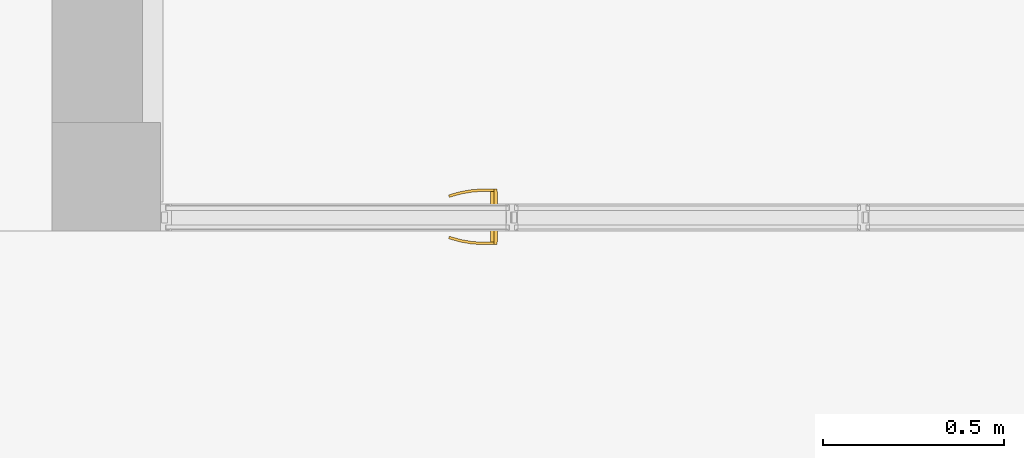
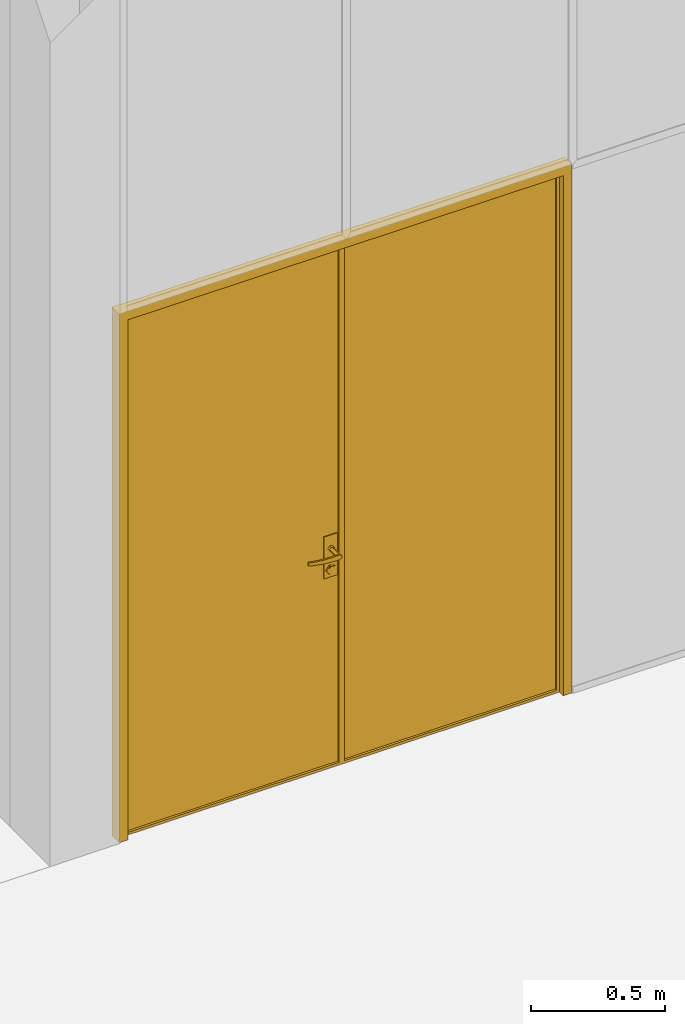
# One storey, part 160 of 246: 1 door, 1 element without a shape of its own.
"""IFC2X3 building model written with IfcOpenShell, lengths in millimetres."""

import ifcopenshell
import ifcopenshell.guid

model = None  # the IFC model being written
_history = None  # IfcOwnerHistory: only IFC2X3 demands one
_inside = {}  # id of a spatial element -> (the spatial element, [elements in it])
_under = {}  # id of a project, library or spatial element -> (it, [spatial elements below it])
_declared = {}  # id of a project -> (the project, [libraries it declares])
_typed = {}  # id of a type object -> (the type object, [elements of that type])
_made_of = {}  # id of a material, layer set ... -> (it, [elements and type objects made of it])


def new_model(schema):
    """Start an empty IFC model of exactly this schema.

    Asked for "IFC4X3", IfcOpenShell would pick the latest addendum, in which some entities
    have other attributes; the version numbers below select the first issue.
    IFC2X3 requires an IfcOwnerHistory on every rooted entity: one is made here for all.
    """
    global model, _history
    if schema == "IFC4X3":
        model = ifcopenshell.file(schema_version=(4, 3, 0, 0))
    else:
        model = ifcopenshell.file(schema=schema)
    _inside.clear()
    _under.clear()
    _declared.clear()
    _typed.clear()
    _made_of.clear()
    _history = None
    if model.schema == "IFC2X3":
        org = make("IfcOrganization", Name="unknown")
        user = make(
            "IfcPersonAndOrganization",
            ThePerson=make("IfcPerson", FamilyName="unknown"),
            TheOrganization=org,
        )
        app = make(
            "IfcApplication",
            ApplicationDeveloper=org,
            Version="unknown",
            ApplicationFullName="unknown",
            ApplicationIdentifier="unknown",
        )
        _history = make(
            "IfcOwnerHistory",
            OwningUser=user,
            OwningApplication=app,
            ChangeAction="ADDED",
            CreationDate=0,
        )
    return model


def make(cls, **values):
    """One entity of the class cls with the attributes given. An attribute that is None is left unset."""
    return model.create_entity(
        cls, **{name: value for name, value in values.items() if value is not None}
    )


def entity(cls, *values):
    """Any entity or typed value of the class cls, its attributes in the order of the schema. None: left unset."""
    e = model.create_entity(cls)
    for i, value in enumerate(values):
        if value is not None:
            e[i] = value
    return e


def rooted(cls, **values):
    """An entity with a GlobalId (a new one), such as an element, a storey or a relation."""
    return make(cls, GlobalId=ifcopenshell.guid.new(), OwnerHistory=_history, **values)


def si_unit(unit_type, name, prefix=None):
    """IfcSIUnit, for example si_unit("LENGTHUNIT", "METRE", prefix="MILLI")."""
    return make("IfcSIUnit", UnitType=unit_type, Prefix=prefix, Name=name)


def converted_unit(unit_type, name, factor, base, dimensions=None, offset=None):
    """IfcConversionBasedUnit, such as the inch: factor (a typed value) times the base unit."""
    return make(
        "IfcConversionBasedUnit"
        if offset is None
        else "IfcConversionBasedUnitWithOffset",
        ConversionOffset=offset,
        Dimensions=None
        if dimensions is None
        else entity("IfcDimensionalExponents", *dimensions),
        UnitType=unit_type,
        Name=name,
        ConversionFactor=make(
            "IfcMeasureWithUnit", ValueComponent=factor, UnitComponent=base
        ),
    )


def derived_unit(unit_type, elements):
    """IfcDerivedUnit: a product of units, each with its exponent."""
    return make(
        "IfcDerivedUnit",
        Elements=[
            make("IfcDerivedUnitElement", Unit=unit, Exponent=power)
            for unit, power in elements
        ],
        UnitType=unit_type,
    )


def money_unit(currency):
    """IfcMonetaryUnit."""
    return make("IfcMonetaryUnit", Currency=currency)


def assignment(units):
    """IfcUnitAssignment: the units of a project."""
    return None if units is None else make("IfcUnitAssignment", Units=units)


def point(xyz):
    """IfcCartesianPoint."""
    return None if xyz is None else make("IfcCartesianPoint", Coordinates=xyz)


def direction(xyz):
    """IfcDirection."""
    return None if xyz is None else make("IfcDirection", DirectionRatios=xyz)


def frame(location, z_axis=None, x_axis=None):
    """IfcAxis2Placement3D, a coordinate frame: its origin and axes. An axis left out is left unset."""
    return make(
        "IfcAxis2Placement3D",
        Location=point(location),
        Axis=direction(z_axis),
        RefDirection=direction(x_axis),
    )


def origin_with_axes():
    """The frame at (0, 0, 0) with the z axis (0, 0, 1) and the x axis (1, 0, 0) written out."""
    return frame((0.0, 0.0, 0.0), z_axis=(0.0, 0.0, 1.0), x_axis=(1.0, 0.0, 0.0))


def place(relative_to, where):
    """IfcLocalPlacement: puts the frame where relative to a parent placement (None: the world)."""
    return make(
        "IfcLocalPlacement", PlacementRelTo=relative_to, RelativePlacement=where
    )


def context(
    kind, dimensions, precision=None, world=None, true_north=None, identifier=None
):
    """IfcGeometricRepresentationContext, for example the 3D "Model" context."""
    return make(
        "IfcGeometricRepresentationContext",
        ContextIdentifier=identifier,
        ContextType=kind,
        CoordinateSpaceDimension=dimensions,
        Precision=precision,
        WorldCoordinateSystem=world,
        TrueNorth=true_north,
    )


def subcontext(parent, identifier, kind, view, scale=None):
    """IfcGeometricRepresentationSubContext, for example "Body" below "Model"."""
    return make(
        "IfcGeometricRepresentationSubContext",
        ContextIdentifier=identifier,
        ContextType=kind,
        ParentContext=parent,
        TargetScale=scale,
        TargetView=view,
    )


def project(units=None, contexts=None):
    """IfcProject with its units and contexts."""
    return rooted(
        "IfcProject",
        Name="project",
        RepresentationContexts=contexts,
        UnitsInContext=assignment(units),
    )


def spatial(cls, under=None, at=None, **own):
    """A site, building, storey or space (cls), placed at a placement, below another one or the project."""
    s = rooted(cls, ObjectPlacement=at, **own)
    if under is not None:
        _under.setdefault(under.id(), (under, []))[1].append(s)
    return s


def faces_of(points, faces, orient=None, outer=None):
    """IfcFace entities. A face is a list of loops; a loop is a list of indices into points, from 0.

    orient and outer hold one flag for each loop. By default every Orientation is true, the
    first loop of a face is its IfcFaceOuterBound and the others are IfcFaceBound.
    """
    made = []
    for i, loops in enumerate(faces):
        bounds = []
        for j, loop in enumerate(loops):
            is_outer = j == 0 if outer is None else outer[i][j]
            bounds.append(
                make(
                    "IfcFaceOuterBound" if is_outer else "IfcFaceBound",
                    Bound=make("IfcPolyLoop", Polygon=[points[k] for k in loop]),
                    Orientation=True if orient is None else orient[i][j],
                )
            )
        made.append(make("IfcFace", Bounds=bounds))
    return made


def open_shell(faces, orient=None, outer=None):
    """The faces of one IfcOpenShell. surface_model builds it on its shared points."""
    return ("IfcOpenShell", faces, orient, outer)


def faceted_brep(points, faces, orient=None, outer=None, voids=None):
    """IfcFacetedBrep: a solid bounded by flat faces; with voids (closed shells), ...WithVoids."""
    shared = [point(p) for p in points]
    hull = make("IfcClosedShell", CfsFaces=faces_of(shared, faces, orient, outer))
    if voids is None:
        return make("IfcFacetedBrep", Outer=hull)
    return make(
        "IfcFacetedBrepWithVoids",
        Outer=hull,
        Voids=[
            make(cls, CfsFaces=faces_of(shared, fs, o, b)) for cls, fs, o, b in voids
        ],
    )


def surface_model(cls, points, shells):
    """IfcFaceBasedSurfaceModel or IfcShellBasedSurfaceModel (cls): surfaces that need not close."""
    shared = [point(p) for p in points]
    made = [make(c, CfsFaces=faces_of(shared, fs, o, b)) for c, fs, o, b in shells]
    if cls == "IfcFaceBasedSurfaceModel":
        return make(cls, FbsmFaces=made)
    return make(cls, SbsmBoundary=made)


def shape(context_of_items, identifier, shape_type, items):
    """IfcShapeRepresentation: the items that make up one representation, for example the "Body"."""
    return make(
        "IfcShapeRepresentation",
        ContextOfItems=context_of_items,
        RepresentationIdentifier=identifier,
        RepresentationType=shape_type,
        Items=items,
    )


def material(Name=None, Category=None):
    """IfcMaterial."""
    return make("IfcMaterial", Name=Name, Category=Category)


def material_list(materials):
    """IfcMaterialList."""
    return make("IfcMaterialList", Materials=materials)


def made_of(thing, what):
    """Note that an element or type object is made of a material, layer set ...; save() writes the relation."""
    if what is not None:
        _made_of.setdefault(what.id(), (what, []))[1].append(thing)
    return thing


def type_object(cls, material=None, **own):
    """A type object (cls), such as IfcWallType, which elements share."""
    return made_of(rooted(cls, **own), material)


def element(
    cls,
    number,
    at=None,
    inside=None,
    cuts=None,
    type_object=None,
    material=None,
    context=None,
    identifier="Body",
    shape_type=None,
    held_by="IfcProductDefinitionShape",
    body=None,
    shapes=None,
    **own,
):
    """One element of the class cls, such as IfcWall. Its Tag is "e" and its number.

    at: its placement. inside: the storey or other place that contains it. cuts: it is an
    opening in that element (IfcRelVoidsElement). A single representation is given by context,
    identifier, shape_type and body (its items); several are given by shapes. held_by: the class
    of the entity that holds the representations. save() writes the other relations.
    """
    e = rooted(cls, Tag="e%d" % number, ObjectPlacement=at, **own)
    if body is not None:
        shapes = [shape(context, identifier, shape_type, body)]
    if shapes is not None:
        e.Representation = make(held_by, Representations=shapes)
    if inside is not None:
        _inside.setdefault(inside.id(), (inside, []))[1].append(e)
    if cuts is not None:
        rooted(
            "IfcRelVoidsElement", RelatingBuildingElement=cuts, RelatedOpeningElement=e
        )
    if type_object is not None:
        _typed.setdefault(type_object.id(), (type_object, []))[1].append(e)
    return made_of(e, material)


def aggregate(whole, parts):
    """IfcRelAggregates: a whole, such as a stair, and the parts it consists of."""
    return rooted("IfcRelAggregates", RelatingObject=whole, RelatedObjects=parts)


def save(model, path):
    """Write the relations noted so far, then the file.

    IfcRelAggregates (storeys below a building ...), IfcRelContainedInSpatialStructure (elements
    in a storey), IfcRelDefinesByType, IfcRelAssociatesMaterial and IfcRelDeclares: one each for
    every whole, place, type object, material and project.
    """
    for whole, parts in _under.values():
        aggregate(whole, parts)
    for where, things in _inside.values():
        rooted(
            "IfcRelContainedInSpatialStructure",
            RelatedElements=things,
            RelatingStructure=where,
        )
    for kind, things in _typed.values():
        rooted("IfcRelDefinesByType", RelatedObjects=things, RelatingType=kind)
    for what, things in _made_of.values():
        rooted("IfcRelAssociatesMaterial", RelatedObjects=things, RelatingMaterial=what)
    for by, libraries in _declared.values():
        rooted("IfcRelDeclares", RelatingContext=by, RelatedDefinitions=libraries)
    model.write(path)


model = new_model("IFC2X3")

# Units and contexts
model_context = context("Model", 3, precision=0.01, world=origin_with_axes(), true_north=direction((0.0, 1.0)))
body_context = subcontext(model_context, "Body", "Model", "MODEL_VIEW")
ifc_project = project(units=[si_unit("LENGTHUNIT", "METRE", prefix="MILLI"), si_unit("AREAUNIT", "SQUARE_METRE"), si_unit("VOLUMEUNIT", "CUBIC_METRE"), converted_unit("PLANEANGLEUNIT", "DEGREE", entity("IfcPlaneAngleMeasure", 0.0174532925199), si_unit("PLANEANGLEUNIT", "RADIAN"), dimensions=[0, 0, 0, 0, 0, 0, 0]), si_unit("SOLIDANGLEUNIT", "STERADIAN"), money_unit("EUR"), converted_unit("TIMEUNIT", "Year", entity("IfcTimeMeasure", 31556926.0), si_unit("TIMEUNIT", "SECOND"), dimensions=[0, 0, 1, 0, 0, 0, 0]), si_unit("MASSUNIT", "GRAM", prefix="KILO"), si_unit("THERMODYNAMICTEMPERATUREUNIT", "DEGREE_CELSIUS"), si_unit("LUMINOUSINTENSITYUNIT", "LUMEN"), si_unit("ENERGYUNIT", "JOULE", prefix="MEGA"), derived_unit("THERMALCONDUCTANCEUNIT", [(si_unit("POWERUNIT", "WATT"), 1), (si_unit("LENGTHUNIT", "METRE"), -1), (si_unit("THERMODYNAMICTEMPERATUREUNIT", "KELVIN"), -1)]), derived_unit("SPECIFICHEATCAPACITYUNIT", [(si_unit("ENERGYUNIT", "JOULE"), 1), (si_unit("MASSUNIT", "GRAM", prefix="KILO"), -1), (si_unit("THERMODYNAMICTEMPERATUREUNIT", "KELVIN"), -1)]), derived_unit("MASSDENSITYUNIT", [(si_unit("MASSUNIT", "GRAM", prefix="KILO"), 1), (si_unit("VOLUMEUNIT", "CUBIC_METRE"), -1)])], contexts=[model_context])

# Site, building, storey
site_placement = place(None, origin_with_axes())
site = spatial("IfcSite", under=ifc_project, at=site_placement, Name="L.Koidula tn 11b", CompositionType="ELEMENT")
building_placement = place(site_placement, origin_with_axes())
building = spatial("IfcBuilding", under=site, at=building_placement, Name="Rakvere Riigigümnaasium", CompositionType="ELEMENT")
storey_placement = place(building_placement, origin_with_axes())
storey = spatial("IfcBuildingStorey", under=building, at=storey_placement, Name="1.korrus 0,00", CompositionType="ELEMENT", Elevation=0.0)

# Curtain wall, door
curtain_wall_type = type_object("IfcCurtainWallType", Name="Curtain Wall Type", PredefinedType="NOTDEFINED")
curtain_wall_placement = place(storey_placement, frame((26572.4999007, 61372.4546496, 0.0), z_axis=(0.0, 0.0, 1.0), x_axis=(1.0, 0.0, 0.0)))
curtain_wall = element("IfcCurtainWall", 1, at=curtain_wall_placement, inside=storey, type_object=curtain_wall_type, Name="SKLF-01")
ifc_material_1 = material(Name="Alumiinium.")
ifc_material_2 = material(Name="VKR-05_Klaas")
ifc_material_3 = material(Name="ET-07_Teras - Roostevaba")
ifc_material_list = material_list([ifc_material_1, ifc_material_2, ifc_material_3])
door_style = type_object("IfcDoorStyle", Name="Siseklaasfassaad - Klaasuks-2-poolne 973 x 2385 x -22", ConstructionType="NOTDEFINED", OperationType="NOTDEFINED", ParameterTakesPrecedence=False, Sizeable=False)
door_placement = place(curtain_wall_placement, frame((0.0, 0.0, 1200.0), z_axis=(0.0, 0.0, 1.0), x_axis=(-1.0, 0.0, 0.0)))
door = element("IfcDoor", 2, at=door_placement, type_object=door_style, material=ifc_material_list, Name="Panel-Siseklaasf-002", ObjectType="DOOR", context=body_context, shape_type="SurfaceModel", body=[
    faceted_brep([(-972.5, -27.0, -1200.0), (-972.5, -27.0, 1200.0), (-972.5, -13.0, 1200.0), (-972.5, -13.0, -1200.0), (-926.5, -27.0, -1200.0), (-926.5, -27.0, 1154.0), (-926.5, -13.0, 1154.0), (-926.5, -13.0, -1200.0)], [[[0, 1, 2, 3]], [[0, 4, 5, 1]], [[1, 5, 6, 2]], [[3, 2, 6, 7]], [[4, 0, 3, 7]], [[5, 4, 7, 6]]]),
    faceted_brep([(972.5, -27.0, 1200.0), (926.5, -27.0, 1154.0), (926.5, -13.0, 1154.0), (972.5, -13.0, 1200.0), (-972.5, -27.0, 1200.0), (-926.5, -27.0, 1154.0), (-926.5, -13.0, 1154.0), (-972.5, -13.0, 1200.0)], [[[0, 1, 2, 3]], [[0, 4, 5, 1]], [[1, 5, 6, 2]], [[3, 2, 6, 7]], [[4, 0, 3, 7]], [[5, 4, 7, 6]]]),
    faceted_brep([(972.5, -27.0, -1200.0), (926.5, -27.0, -1200.0), (926.5, -13.0, -1200.0), (972.5, -13.0, -1200.0), (972.5, -27.0, 1200.0), (926.5, -27.0, 1154.0), (926.5, -13.0, 1154.0), (972.5, -13.0, 1200.0)], [[[0, 1, 2, 3]], [[0, 4, 5, 1]], [[1, 5, 6, 2]], [[3, 2, 6, 7]], [[4, 0, 3, 7]], [[5, 4, 7, 6]]]),
    faceted_brep([(-972.5, -13.0, -1200.0), (-972.5, -13.0, 1200.0), (-972.5, 27.0, 1200.0), (-972.5, 27.0, -1200.0), (-934.5, -13.0, -1200.0), (-934.5, -13.0, 1162.0), (-934.5, 27.0, 1162.0), (-934.5, 27.0, -1200.0)], [[[0, 1, 2, 3]], [[0, 4, 5, 1]], [[1, 5, 6, 2]], [[3, 2, 6, 7]], [[4, 0, 3, 7]], [[5, 4, 7, 6]]]),
    faceted_brep([(972.5, -13.0, 1200.0), (934.5, -13.0, 1162.0), (934.5, 27.0, 1162.0), (972.5, 27.0, 1200.0), (-972.5, -13.0, 1200.0), (-934.5, -13.0, 1162.0), (-934.5, 27.0, 1162.0), (-972.5, 27.0, 1200.0)], [[[0, 1, 2, 3]], [[0, 4, 5, 1]], [[1, 5, 6, 2]], [[3, 2, 6, 7]], [[4, 0, 3, 7]], [[5, 4, 7, 6]]]),
    faceted_brep([(972.5, -13.0, -1200.0), (934.5, -13.0, -1200.0), (934.5, 27.0, -1200.0), (972.5, 27.0, -1200.0), (972.5, -13.0, 1200.0), (934.5, -13.0, 1162.0), (934.5, 27.0, 1162.0), (972.5, 27.0, 1200.0)], [[[0, 1, 2, 3]], [[0, 4, 5, 1]], [[1, 5, 6, 2]], [[3, 2, 6, 7]], [[4, 0, 3, 7]], [[5, 4, 7, 6]]]),
    faceted_brep([(-972.5, -11.0, 1200.0), (972.5, -11.0, 1200.0), (972.5, 11.0, 1200.0), (-972.5, 11.0, 1200.0), (-972.5, -11.0, 1185.0), (972.5, -11.0, 1185.0), (972.5, 11.0, 1185.0), (-972.5, 11.0, 1185.0)], [[[0, 1, 2, 3]], [[0, 4, 5, 1]], [[1, 5, 6, 2]], [[3, 2, 6, 7]], [[4, 0, 3, 7]], [[5, 4, 7, 6]]]),
    faceted_brep([(922.5, -13.0, -1188.0), (922.5, -13.0, 1150.0), (922.5, -0.999999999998, 1150.0), (922.5, -0.999999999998, -1188.0), (934.5, -13.0, -1200.0), (934.5, -13.0, 1162.0), (934.5, -0.999999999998, 1162.0), (934.5, -0.999999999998, -1200.0)], [[[0, 1, 2, 3]], [[0, 4, 5, 1]], [[1, 5, 6, 2]], [[3, 2, 6, 7]], [[4, 0, 3, 7]], [[5, 4, 7, 6]]]),
    faceted_brep([(0.0, -13.0, -1200.0), (0.0, -13.0, 1162.0), (0.0, -0.999999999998, 1162.0), (0.0, -0.999999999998, -1200.0), (12.0, -13.0, -1188.0), (12.0, -13.0, 1150.0), (12.0, -0.999999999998, 1150.0), (12.0, -0.999999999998, -1188.0)], [[[0, 1, 2, 3]], [[0, 4, 5, 1]], [[1, 5, 6, 2]], [[3, 2, 6, 7]], [[4, 0, 3, 7]], [[5, 4, 7, 6]]]),
    faceted_brep([(0.0, -13.0, -1200.0), (12.0, -13.0, -1188.0), (12.0, -0.999999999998, -1188.0), (0.0, -0.999999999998, -1200.0), (934.5, -13.0, -1200.0), (922.5, -13.0, -1188.0), (922.5, -0.999999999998, -1188.0), (934.5, -0.999999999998, -1200.0)], [[[0, 1, 2, 3]], [[0, 4, 5, 1]], [[1, 5, 6, 2]], [[3, 2, 6, 7]], [[4, 0, 3, 7]], [[5, 4, 7, 6]]]),
    faceted_brep([(934.5, -13.0, 1162.0), (922.5, -13.0, 1150.0), (922.5, -0.999999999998, 1150.0), (934.5, -0.999999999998, 1162.0), (0.0, -13.0, 1162.0), (12.0, -13.0, 1150.0), (12.0, -0.999999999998, 1150.0), (0.0, -0.999999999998, 1162.0)], [[[0, 1, 2, 3]], [[0, 4, 5, 1]], [[1, 5, 6, 2]], [[3, 2, 6, 7]], [[4, 0, 3, 7]], [[5, 4, 7, 6]]]),
    faceted_brep([(922.5, -27.0, -1188.0), (12.0, -27.0, -1188.0), (12.0, -11.0, -1188.0), (922.5, -11.0, -1188.0), (922.5, -27.0, 1150.0), (12.0, -27.0, 1150.0), (12.0, -11.0, 1150.0), (922.5, -11.0, 1150.0)], [[[0, 1, 2, 3]], [[0, 4, 5, 1]], [[1, 5, 6, 2]], [[3, 2, 6, 7]], [[4, 0, 3, 7]], [[5, 4, 7, 6]]]),
    faceted_brep([(21.5, -0.999999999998, -140.0), (78.5, -0.999999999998, -140.0), (78.5, 2.0, -140.0), (21.5, 2.0, -140.0), (21.5, -0.999999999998, -330.0), (78.5, -0.999999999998, -330.0), (78.5, 2.0, -330.0), (21.5, 2.0, -330.0)], [[[0, 1, 2, 3]], [[0, 4, 5, 1]], [[1, 5, 6, 2]], [[3, 2, 6, 7]], [[4, 0, 3, 7]], [[5, 4, 7, 6]]]),
    surface_model("IfcShellBasedSurfaceModel", [(50.0, 63.0, -210.0), (41.3397459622, 63.0, -205.0), (41.3397459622, 70.0, -205.0), (50.0, 70.0, -210.0), (75.0, 63.0, -210.0), (75.0, 63.0, -190.0), (50.0, 63.0, -190.0), (41.3397459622, 63.0, -195.0), (41.3397459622, 70.0, -195.0), (50.0, 70.0, -190.0), (75.0, 70.0, -190.0), (75.0, 70.0, -210.0)], [open_shell([[[0, 1, 2, 3]], [[0, 4, 5, 6, 7, 1]], [[1, 7, 8, 2]], [[3, 2, 8, 9, 10, 11]], [[4, 0, 3, 11]], [[6, 5, 10, 9]], [[7, 6, 9, 8]]])]),
    surface_model("IfcShellBasedSurfaceModel", [(75.0, 63.0, -190.0), (88.0982828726, 63.0, -190.392699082), (88.4039094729, 70.0, -190.392699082), (75.0, 63.0, -210.0), (88.0982828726, 63.0, -209.607300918), (115.109716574, 67.6635446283, -191.178097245), (75.0, 70.0, -190.0), (75.0, 70.0, -210.0), (114.195162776, 60.716818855, -208.821902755), (114.195162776, 60.716818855, -191.178097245), (115.109716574, 67.6635446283, -208.821902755), (88.4039094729, 70.0, -209.607300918), (139.993743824, 56.1678329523, -208.036504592), (139.993743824, 56.1678329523, -191.963495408), (141.510264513, 63.0084157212, -191.963495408), (141.510264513, 63.0084157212, -208.036504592), (165.297683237, 49.3876628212, -207.251106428), (165.297683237, 49.3876628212, -192.748893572), (167.40462918, 56.0700416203, -192.748893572), (167.40462918, 56.0700416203, -207.251106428), (173.170557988, 46.5221707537, -207.0), (173.170557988, 46.5221707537, -193.0), (175.461204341, 53.1376880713, -193.0), (175.461204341, 53.1376880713, -207.0)], [open_shell([[[0, 1, 2]], [[0, 3, 4, 1]], [[1, 5, 2]], [[0, 2, 6]], [[4, 3, 7]], [[1, 4, 8, 9]], [[1, 9, 5]], [[2, 5, 10, 11]], [[6, 2, 11, 7]], [[4, 7, 11]], [[8, 4, 11]], [[9, 8, 12, 13]], [[9, 14, 5]], [[5, 14, 15, 10]], [[8, 11, 10]], [[12, 8, 10]], [[13, 12, 16, 17]], [[9, 13, 14]], [[14, 18, 19, 15]], [[12, 10, 15]], [[16, 12, 15]], [[17, 16, 20, 21]], [[13, 17, 18]], [[13, 18, 14]], [[18, 22, 23, 19]], [[16, 15, 19]], [[20, 16, 19]], [[21, 20, 23, 22]], [[17, 21, 22]], [[17, 22, 18]], [[20, 19, 23]]])]),
    faceted_brep([(53.7082039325, 12.0, -211.412678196), (62.0, 12.0, -200.0), (63.0, 2.0, -200.0), (54.0172209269, 2.0, -212.363734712), (40.2917960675, 12.0, -207.053423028), (40.2917960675, 12.0, -192.946576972), (53.7082039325, 12.0, -188.587321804), (54.0172209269, 2.0, -187.636265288), (39.4827790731, 2.0, -192.35879172), (39.4827790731, 2.0, -207.64120828)], [[[0, 1, 2, 3]], [[1, 0, 4, 5, 6]], [[1, 6, 7, 2]], [[2, 7, 8, 9, 3]], [[4, 0, 3, 9]], [[5, 4, 9, 8]], [[6, 5, 8, 7]]]),
    faceted_brep([(56.1803398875, 6.0, -314.021130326), (70.0, 6.0, -295.0), (72.0, 2.0, -295.0), (56.7983738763, 2.0, -315.923243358), (33.8196601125, 6.0, -306.755705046), (33.8196601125, 6.0, -283.244294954), (56.1803398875, 6.0, -275.978869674), (56.7983738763, 2.0, -274.076756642), (32.2016261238, 2.0, -282.06872445), (32.2016261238, 2.0, -307.93127555)], [[[0, 1, 2, 3]], [[1, 0, 4, 5, 6]], [[1, 6, 7, 2]], [[2, 7, 8, 9, 3]], [[4, 0, 3, 9]], [[5, 4, 9, 8]], [[6, 5, 8, 7]]]),
    faceted_brep([(52.1631189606, 8.0, -292.657395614), (57.0, 8.0, -286.0), (58.0, 6.0, -286.0), (52.472135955, 6.0, -293.60845213), (44.3368810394, 8.0, -290.114496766), (44.3368810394, 8.0, -281.885503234), (52.1631189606, 8.0, -279.342604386), (52.472135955, 6.0, -278.39154787), (43.527864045, 6.0, -281.297717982), (43.527864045, 6.0, -290.702282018)], [[[0, 1, 2, 3]], [[1, 0, 4, 5, 6]], [[1, 6, 7, 2]], [[2, 7, 8, 9, 3]], [[4, 0, 3, 9]], [[5, 4, 9, 8]], [[6, 5, 8, 7]]]),
    faceted_brep([(50.0, 12.0, -190.0), (59.510565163, 12.0, -196.909830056), (59.510565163, 63.0, -196.909830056), (50.0, 63.0, -190.0), (40.4894348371, 12.0, -196.909830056), (44.1221474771, 12.0, -208.090169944), (55.8778525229, 12.0, -208.090169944), (55.8778525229, 63.0, -208.090169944), (44.1221474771, 63.0, -208.090169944), (40.4894348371, 63.0, -196.909830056)], [[[0, 1, 2, 3]], [[0, 4, 5, 6, 1]], [[1, 6, 7, 2]], [[3, 2, 7, 8, 9]], [[4, 0, 3, 9]], [[5, 4, 9, 8]], [[6, 5, 8, 7]]]),
    faceted_brep([(21.5, -13.0, -140.0), (21.5, -16.0, -140.0), (78.5, -16.0, -140.0), (78.5, -13.0, -140.0), (21.5, -13.0, -330.0), (21.5, -16.0, -330.0), (78.5, -16.0, -330.0), (78.5, -13.0, -330.0)], [[[0, 1, 2, 3]], [[4, 5, 1, 0]], [[1, 5, 6, 2]], [[3, 2, 6, 7]], [[0, 3, 7, 4]], [[7, 6, 5, 4]]]),
    surface_model("IfcShellBasedSurfaceModel", [(50.0, -77.0, -210.0), (50.0, -84.0, -210.0), (41.3397459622, -84.0, -205.0), (41.3397459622, -77.0, -205.0), (75.0, -77.0, -210.0), (75.0, -84.0, -210.0), (75.0, -84.0, -190.0), (50.0, -84.0, -190.0), (41.3397459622, -84.0, -195.0), (41.3397459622, -77.0, -195.0), (50.0, -77.0, -190.0), (75.0, -77.0, -190.0)], [open_shell([[[0, 1, 2, 3]], [[4, 5, 1, 0]], [[1, 5, 6, 7, 8, 2]], [[3, 2, 8, 9]], [[0, 3, 9, 10, 11, 4]], [[10, 7, 6, 11]], [[9, 8, 7, 10]]])]),
    surface_model("IfcShellBasedSurfaceModel", [(75.0, -77.0, -190.0), (88.4039094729, -84.0, -190.392699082), (88.0982828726, -77.0, -190.392699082), (75.0, -84.0, -190.0), (115.109716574, -81.6635446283, -191.178097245), (88.0982828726, -77.0, -209.607300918), (75.0, -77.0, -210.0), (75.0, -84.0, -210.0), (88.4039094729, -84.0, -209.607300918), (115.109716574, -81.6635446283, -208.821902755), (114.195162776, -74.716818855, -191.178097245), (114.195162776, -74.716818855, -208.821902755), (141.510264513, -77.0084157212, -208.036504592), (141.510264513, -77.0084157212, -191.963495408), (139.993743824, -70.1678329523, -191.963495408), (139.993743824, -70.1678329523, -208.036504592), (167.40462918, -70.0700416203, -207.251106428), (167.40462918, -70.0700416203, -192.748893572), (165.297683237, -63.3876628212, -192.748893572), (165.297683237, -63.3876628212, -207.251106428), (175.461204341, -67.1376880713, -207.0), (175.461204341, -67.1376880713, -193.0), (173.170557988, -60.5221707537, -193.0), (173.170557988, -60.5221707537, -207.0)], [open_shell([[[0, 1, 2]], [[0, 3, 1]], [[2, 1, 4]], [[0, 2, 5, 6]], [[3, 7, 8, 1]], [[1, 8, 9, 4]], [[2, 4, 10]], [[2, 10, 11, 5]], [[5, 7, 6]], [[5, 8, 7]], [[11, 9, 8]], [[4, 9, 12, 13]], [[10, 4, 13]], [[10, 14, 15, 11]], [[11, 8, 5]], [[15, 9, 11]], [[15, 12, 9]], [[13, 12, 16, 17]], [[10, 13, 14]], [[14, 18, 19, 15]], [[19, 12, 15]], [[19, 16, 12]], [[17, 16, 20, 21]], [[14, 13, 17]], [[14, 17, 18]], [[18, 22, 23, 19]], [[23, 16, 19]], [[23, 20, 16]], [[22, 21, 20, 23]], [[18, 17, 21]], [[18, 21, 22]]])]),
    faceted_brep([(53.7082039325, -26.0, -211.412678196), (54.0172209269, -16.0, -212.363734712), (63.0, -16.0, -200.0), (62.0, -26.0, -200.0), (40.2917960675, -26.0, -207.053423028), (39.4827790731, -16.0, -207.64120828), (39.4827790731, -16.0, -192.35879172), (54.0172209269, -16.0, -187.636265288), (53.7082039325, -26.0, -188.587321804), (40.2917960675, -26.0, -192.946576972)], [[[0, 1, 2, 3]], [[4, 5, 1, 0]], [[2, 1, 5, 6, 7]], [[3, 2, 7, 8]], [[3, 8, 9, 4, 0]], [[9, 6, 5, 4]], [[8, 7, 6, 9]]]),
    faceted_brep([(56.1803398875, -20.0, -314.021130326), (56.7983738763, -16.0, -315.923243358), (72.0, -16.0, -295.0), (70.0, -20.0, -295.0), (33.8196601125, -20.0, -306.755705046), (32.2016261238, -16.0, -307.93127555), (32.2016261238, -16.0, -282.06872445), (56.7983738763, -16.0, -274.076756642), (56.1803398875, -20.0, -275.978869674), (33.8196601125, -20.0, -283.244294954)], [[[0, 1, 2, 3]], [[4, 5, 1, 0]], [[2, 1, 5, 6, 7]], [[3, 2, 7, 8]], [[3, 8, 9, 4, 0]], [[9, 6, 5, 4]], [[8, 7, 6, 9]]]),
    faceted_brep([(52.1631189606, -22.0, -292.657395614), (52.472135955, -20.0, -293.60845213), (58.0, -20.0, -286.0), (57.0, -22.0, -286.0), (44.3368810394, -22.0, -290.114496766), (43.527864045, -20.0, -290.702282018), (43.527864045, -20.0, -281.297717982), (52.472135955, -20.0, -278.39154787), (52.1631189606, -22.0, -279.342604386), (44.3368810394, -22.0, -281.885503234)], [[[0, 1, 2, 3]], [[4, 5, 1, 0]], [[2, 1, 5, 6, 7]], [[3, 2, 7, 8]], [[3, 8, 9, 4, 0]], [[9, 6, 5, 4]], [[8, 7, 6, 9]]]),
    faceted_brep([(50.0, -26.0, -190.0), (50.0, -77.0, -190.0), (59.510565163, -77.0, -196.909830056), (59.510565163, -26.0, -196.909830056), (40.4894348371, -26.0, -196.909830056), (40.4894348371, -77.0, -196.909830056), (44.1221474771, -77.0, -208.090169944), (55.8778525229, -77.0, -208.090169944), (55.8778525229, -26.0, -208.090169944), (44.1221474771, -26.0, -208.090169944)], [[[0, 1, 2, 3]], [[4, 5, 1, 0]], [[1, 5, 6, 7, 2]], [[3, 2, 7, 8]], [[0, 3, 8, 9, 4]], [[9, 6, 5, 4]], [[8, 7, 6, 9]]]),
    faceted_brep([(-12.0, -13.0, -1188.0), (-12.0, -13.0, 1150.0), (-12.0, -0.999999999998, 1150.0), (-12.0, -0.999999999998, -1188.0), (0.0, -13.0, -1200.0), (0.0, -13.0, 1162.0), (0.0, -0.999999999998, 1162.0), (0.0, -0.999999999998, -1200.0)], [[[0, 1, 2, 3]], [[0, 4, 5, 1]], [[1, 5, 6, 2]], [[3, 2, 6, 7]], [[4, 0, 3, 7]], [[5, 4, 7, 6]]]),
    faceted_brep([(-934.5, -13.0, -1200.0), (-934.5, -13.0, 1162.0), (-934.5, -0.999999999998, 1162.0), (-934.5, -0.999999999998, -1200.0), (-922.5, -13.0, -1188.0), (-922.5, -13.0, 1150.0), (-922.5, -0.999999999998, 1150.0), (-922.5, -0.999999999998, -1188.0)], [[[0, 1, 2, 3]], [[0, 4, 5, 1]], [[1, 5, 6, 2]], [[3, 2, 6, 7]], [[4, 0, 3, 7]], [[5, 4, 7, 6]]]),
    faceted_brep([(-934.5, -13.0, -1200.0), (-922.5, -13.0, -1188.0), (-922.5, -0.999999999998, -1188.0), (-934.5, -0.999999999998, -1200.0), (0.0, -13.0, -1200.0), (-12.0, -13.0, -1188.0), (-12.0, -0.999999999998, -1188.0), (0.0, -0.999999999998, -1200.0)], [[[0, 1, 2, 3]], [[0, 4, 5, 1]], [[1, 5, 6, 2]], [[3, 2, 6, 7]], [[4, 0, 3, 7]], [[5, 4, 7, 6]]]),
    faceted_brep([(0.0, -13.0, 1162.0), (-12.0, -13.0, 1150.0), (-12.0, -0.999999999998, 1150.0), (0.0, -0.999999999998, 1162.0), (-934.5, -13.0, 1162.0), (-922.5, -13.0, 1150.0), (-922.5, -0.999999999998, 1150.0), (-934.5, -0.999999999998, 1162.0)], [[[0, 1, 2, 3]], [[0, 4, 5, 1]], [[1, 5, 6, 2]], [[3, 2, 6, 7]], [[4, 0, 3, 7]], [[5, 4, 7, 6]]]),
    faceted_brep([(-12.0, -27.0, -1188.0), (-922.5, -27.0, -1188.0), (-922.5, -11.0, -1188.0), (-12.0, -11.0, -1188.0), (-12.0, -27.0, 1150.0), (-922.5, -27.0, 1150.0), (-922.5, -11.0, 1150.0), (-12.0, -11.0, 1150.0)], [[[0, 1, 2, 3]], [[0, 4, 5, 1]], [[1, 5, 6, 2]], [[3, 2, 6, 7]], [[4, 0, 3, 7]], [[5, 4, 7, 6]]]),
])
aggregate(curtain_wall, [door])

save(model, "model.ifc")
